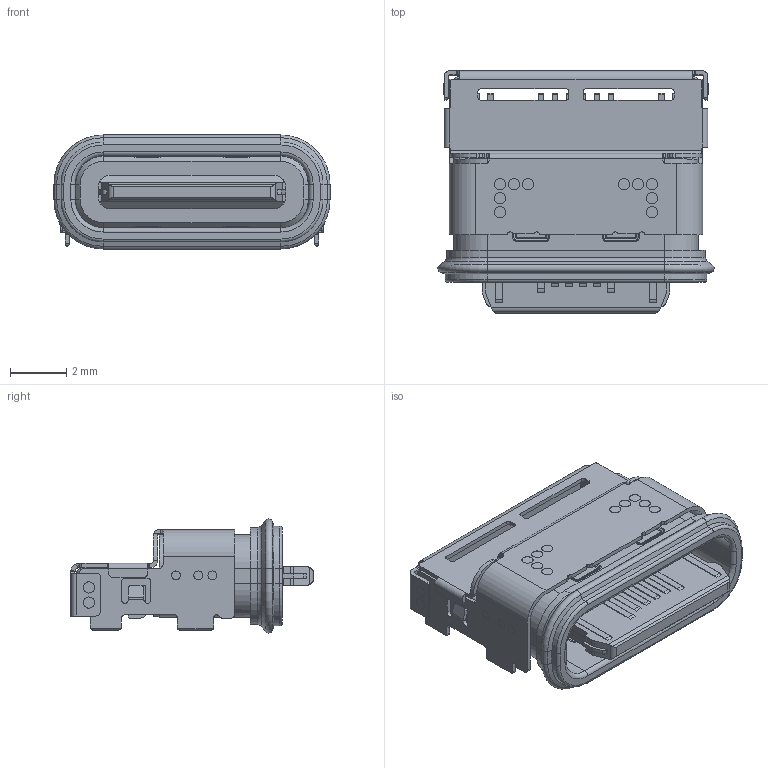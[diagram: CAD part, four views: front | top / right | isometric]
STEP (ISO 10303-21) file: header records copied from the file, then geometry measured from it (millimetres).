
FILE_DESCRIPTION(('Creo Elements/Direct Modeling STEP Export'),'2;1');
FILE_NAME('TYPE-C-16P防水-3D.stp','2025-03-01T14:24:55',(''),(''),'PTC Creo Elements/Direct Modeling STEP processor for AP214 (Solid Model)','PTC Creo Elements/Direct Modeling 19.0 09-May-2014 (C) Parametric Technology GmbH','');
FILE_SCHEMA(('AUTOMOTIVE_DESIGN { 1 0 10303 214 1 1 1 1 }'));
Length unit declared in the file: millimetre
Products named in the file (2): TYPE-C-16P-3D
Assembly tree (1 placements, depth 2):
  TYPE-C-16P-3D
    TYPE-C-16P-3D
Bounding box: 9.85 x 8.65 x 4.07 mm (x, y, z)
Volume: 108.6 mm3; surface area: 629.5 mm2
Topology: 1 solids, 4 shells, 1191 faces, 3250 edges, 2079 vertices
Faces by surface type: plane 697, cylinder 357, torus 64, cone 32, bspline 20, sphere 18, extrusion 3
Entity records: 40397 total; most frequent: CARTESIAN_POINT 7886, ORIENTED_EDGE 6504, DIRECTION 6062, EDGE_CURVE 3248, VECTOR 2178, LINE 2175, VERTEX_POINT 2079, AXIS2_PLACEMENT_3D 1942
